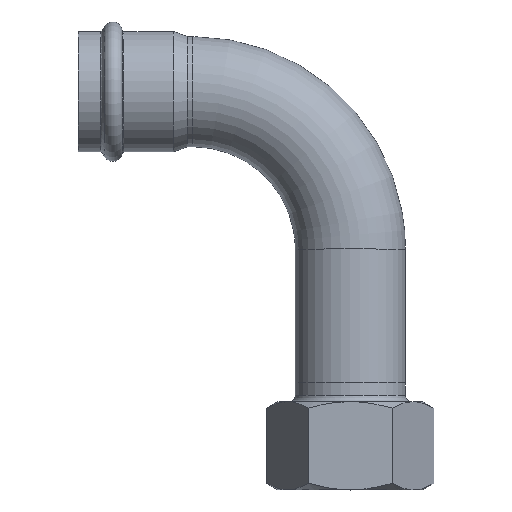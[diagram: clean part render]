
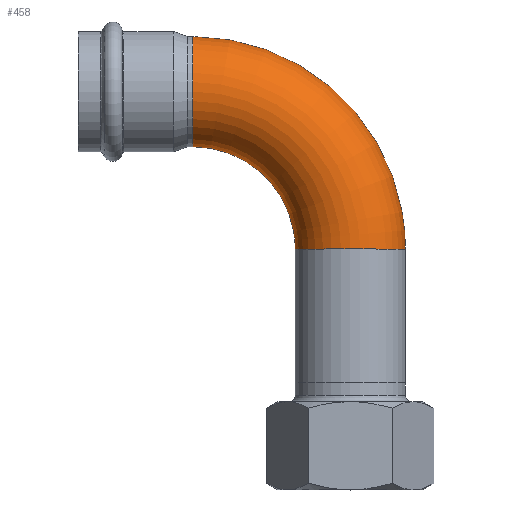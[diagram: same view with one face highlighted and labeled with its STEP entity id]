
A CAD part, top view. The second image highlights one B-rep face of the part: STEP entity #458.
In plain terms, the highlighted toroidal (fillet/blend) face has major radius 50 mm and minor radius 17.5 mm.
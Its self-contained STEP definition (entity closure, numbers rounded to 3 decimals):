
#427=CARTESIAN_POINT('',(50.0,-50.0,-17.5));
#428=VERTEX_POINT('',#427);
#429=CARTESIAN_POINT('',(50.0,-50.,0.0));
#430=DIRECTION('',(0.0,1.0,0.0));
#431=DIRECTION('',(0.0,0.0,1.0));
#432=AXIS2_PLACEMENT_3D('',#429,#430,#431);
#433=CIRCLE('',#432,17.5);
#434=EDGE_CURVE('',#428,#428,#433,.T.);
#439=CARTESIAN_POINT('',(0.0,-50.0,0.0));
#440=DIRECTION('',(0.0,0.0,-1.0));
#441=DIRECTION('',(-1.0,0.0,0.0));
#442=AXIS2_PLACEMENT_3D('',#439,#440,#441);
#443=TOROIDAL_SURFACE('',#442,50.0,17.5);
#444=ORIENTED_EDGE('',*,*,#434,.T.);
#445=EDGE_LOOP('',(#444));
#446=FACE_OUTER_BOUND('',#445,.T.);
#447=CARTESIAN_POINT('',(0.,17.5,0.0));
#448=VERTEX_POINT('',#447);
#449=CARTESIAN_POINT('',(0.,0.0,0.0));
#450=DIRECTION('',(1.0,0.0,0.0));
#451=DIRECTION('',(0.0,1.0,0.0));
#452=AXIS2_PLACEMENT_3D('',#449,#450,#451);
#453=CIRCLE('',#452,17.5);
#454=EDGE_CURVE('',#448,#448,#453,.T.);
#455=ORIENTED_EDGE('',*,*,#454,.T.);
#456=EDGE_LOOP('',(#455));
#457=FACE_BOUND('',#456,.T.);
#458=ADVANCED_FACE('',(#446,#457),#443,.T.);
